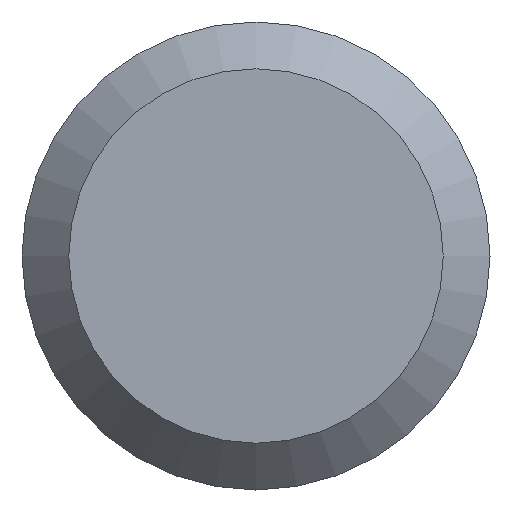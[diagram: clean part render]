
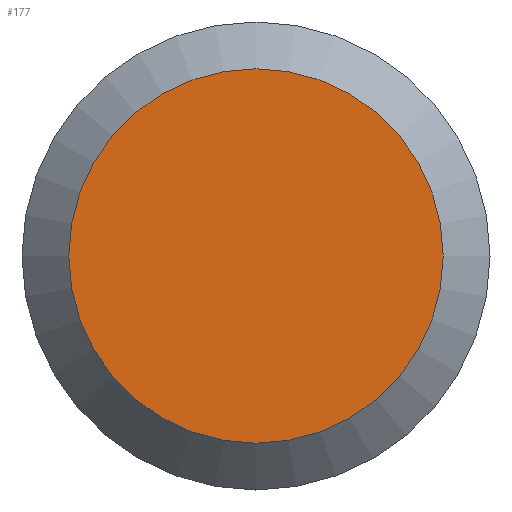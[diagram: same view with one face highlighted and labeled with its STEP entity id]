
A CAD part, left-side view. The second image highlights one B-rep face of the part: STEP entity #177.
In plain terms, the highlighted planar face has unit normal (-1, 0, 0).
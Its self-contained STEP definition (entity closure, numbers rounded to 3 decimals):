
#21 = DIRECTION ( 'NONE',  ( 1., 0., 0. ) ) ;
#24 = AXIS2_PLACEMENT_3D ( 'NONE', #98, #21, #54 ) ;
#32 = CARTESIAN_POINT ( 'NONE',  ( 0., 0., -7.62 ) ) ;
#33 = VERTEX_POINT ( 'NONE', #32 ) ;
#53 = DIRECTION ( 'NONE',  ( -1., 0., 0. ) ) ;
#54 = DIRECTION ( 'NONE',  ( 0., 0., -1. ) ) ;
#71 = PLANE ( 'NONE',  #24 ) ;
#83 = CARTESIAN_POINT ( 'NONE',  ( 0., 0., 0. ) ) ;
#98 = CARTESIAN_POINT ( 'NONE',  ( 0., 9.525, 0. ) ) ;
#105 = EDGE_CURVE ( 'NONE', #33, #33, #112, .T. ) ;
#112 = CIRCLE ( 'NONE', #189, 7.62 ) ;
#177 = ADVANCED_FACE ( 'NONE', ( #194 ), #71, .F. ) ;
#178 = ORIENTED_EDGE ( 'NONE', *, *, #105, .T. ) ;
#183 = EDGE_LOOP ( 'NONE', ( #178 ) ) ;
#184 = DIRECTION ( 'NONE',  ( 0., 0., -1. ) ) ;
#189 = AXIS2_PLACEMENT_3D ( 'NONE', #83, #53, #184 ) ;
#194 = FACE_OUTER_BOUND ( 'NONE', #183, .T. ) ;
